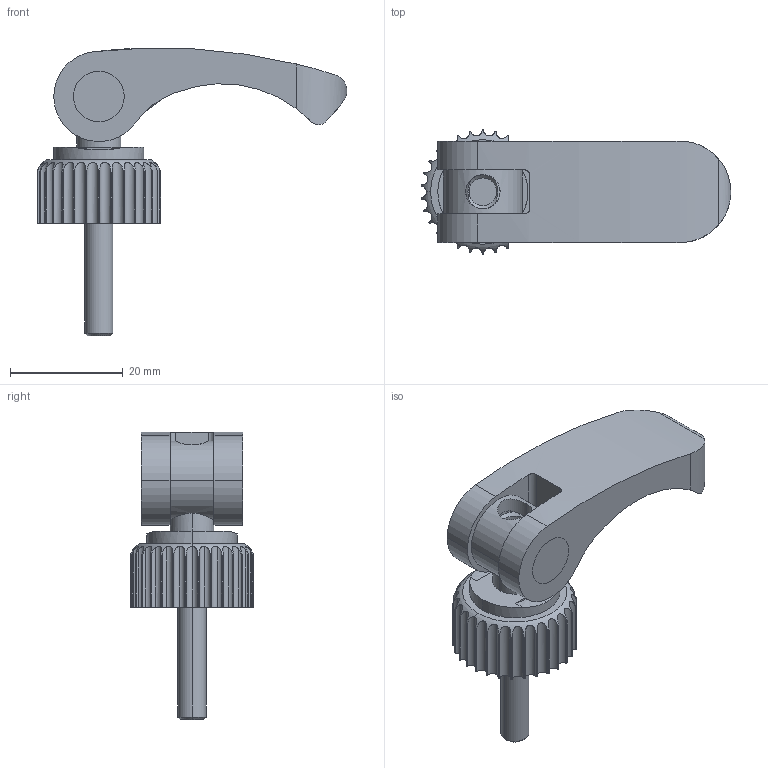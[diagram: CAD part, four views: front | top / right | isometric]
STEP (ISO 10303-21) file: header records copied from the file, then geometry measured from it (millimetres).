
FILE_DESCRIPTION (( 'STEP AP203' ), '1' );
FILE_NAME ('ecl05x20-sus.STEP', '2023-04-04T08:14:01', ( '' ), ( '' ), 'SwSTEP 2.0', 'SolidWorks 2021', '' );
FILE_SCHEMA (( 'CONFIG_CONTROL_DESIGN' ));
Length unit declared in the file: millimetre
Products named in the file (3): ecl05x20-sus_01; ecl05x20-sus_02; ecl05x20-sus
Assembly tree (2 placements, depth 2):
  ecl05x20-sus
    ecl05x20-sus_01
    ecl05x20-sus_02
Bounding box: 54.95 x 22 x 51.08 mm (x, y, z)
Volume: 12342 mm3; surface area: 6675.6 mm2
Topology: 2 solids, 3 shells, 219 faces, 610 edges, 404 vertices
Faces by surface type: cylinder 196, plane 17, cone 4, torus 2
Entity records: 8962 total; most frequent: CARTESIAN_POINT 3086, ORIENTED_EDGE 1220, DIRECTION 1153, EDGE_CURVE 610, AXIS2_PLACEMENT_3D 475, VERTEX_POINT 404, CIRCLE 251, EDGE_LOOP 232
